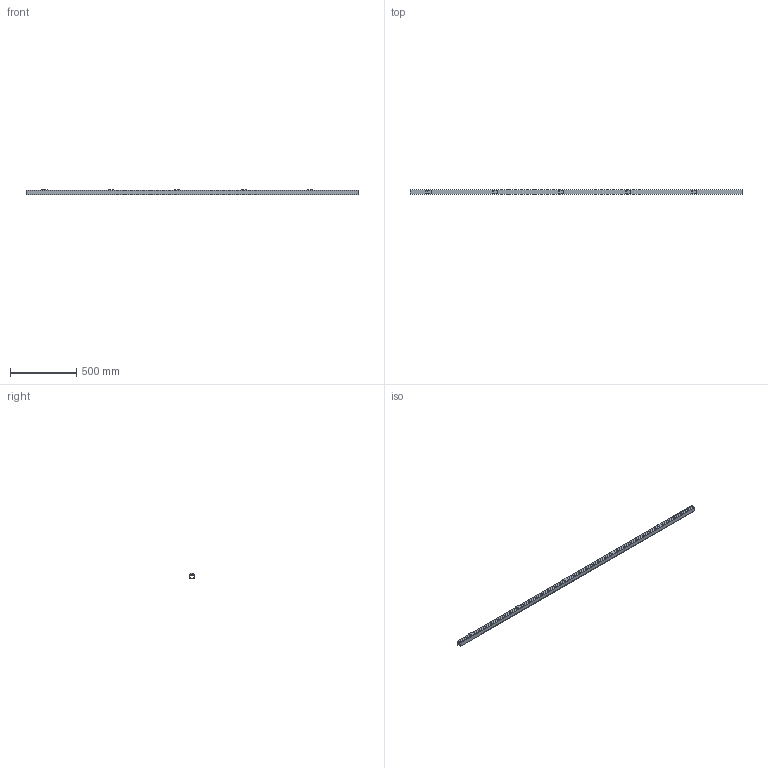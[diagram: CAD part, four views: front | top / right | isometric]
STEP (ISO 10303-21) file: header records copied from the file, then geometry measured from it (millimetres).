
FILE_DESCRIPTION(('STEP AP242'),'1');
FILE_NAME('OPO_65.081.63_volu_schn_3d.stp','2026-01-30T20:51:18',(' '),(' '),'Spatial InterOp 3D',' ',' ');
FILE_SCHEMA(('AP242_MANAGED_MODEL_BASED_3D_ENGINEERING_MIM_LF {1 0 10303 442 1 1 4}'));
Length unit declared in the file: millimetre
Products named in the file (1): 1
Bounding box: 2500 x 33 x 43 mm (x, y, z)
Volume: 734958.7 mm3; surface area: 586807.3 mm2
Topology: 1 solids, 1 shells, 141 faces, 639 edges, 770 vertices
Faces by surface type: plane 121, cylinder 20
Entity records: 8639 total; most frequent: CARTESIAN_POINT 1030, DIRECTION 985, ORIENTED_EDGE 756, LINE 579, VECTOR 579, STYLED_ITEM 402, PRESENTATION_STYLE_ASSIGNMENT 402, COLOUR_RGB 402
